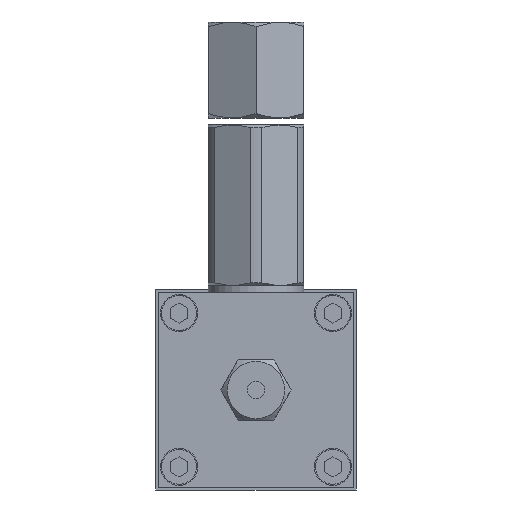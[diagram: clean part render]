
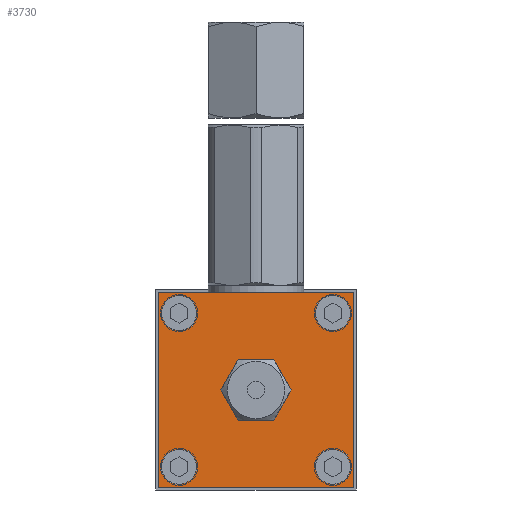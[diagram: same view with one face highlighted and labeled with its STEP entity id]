
A CAD part, left-side view. The second image highlights one B-rep face of the part: STEP entity #3730.
In plain terms, the highlighted planar face has unit normal (-1, 0, 0).
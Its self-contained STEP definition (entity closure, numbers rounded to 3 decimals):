
#3730=ADVANCED_FACE('', (#3740,#3750,#3760,#3770,#3780,#3790), #3800, 
.T.);
#15450=AXIS2_PLACEMENT_3D('Ax2Pl3d', #15460, #15470, #15480);
#15490=AXIS2_PLACEMENT_3D('Ax2Pl3d', #15500, #15510, #15520);
#15530=AXIS2_PLACEMENT_3D('Ax2Pl3d', #15540, #15550, #15560);
#15570=AXIS2_PLACEMENT_3D('Ax2Pl3d', #15580, #15590, #15600);
#15610=AXIS2_PLACEMENT_3D('Ax2Pl3d', #15620, #15630, #15640);
#15460=CARTESIAN_POINT('HicPkt', (-40.,45.5,0.5));
#74570=CARTESIAN_POINT('', (-40.,0.5,0.5));
#74580=CARTESIAN_POINT('', (-40.,45.5,0.5));
#74590=CARTESIAN_POINT('', (-40.,0.5,0.5));
#74600=CARTESIAN_POINT('', (-40.,0.5,45.5));
#74610=CARTESIAN_POINT('', (-40.,0.5,45.5));
#74620=CARTESIAN_POINT('', (-40.,45.5,45.5));
#74630=CARTESIAN_POINT('', (-40.,45.5,45.5));
#74640=CARTESIAN_POINT('', (-40.,45.5,0.5));
#74650=CARTESIAN_POINT('', (-40.,18.959,30.));
#74660=CARTESIAN_POINT('', (-40.,14.917,23.));
#74670=CARTESIAN_POINT('', (-40.,18.959,30.));
#74680=CARTESIAN_POINT('', (-40.,14.917,23.));
#74690=CARTESIAN_POINT('', (-40.,18.959,16.));
#74700=CARTESIAN_POINT('', (-40.,18.959,16.));
#74710=CARTESIAN_POINT('', (-40.,27.041,16.));
#74720=CARTESIAN_POINT('', (-40.,27.041,16.));
#74730=CARTESIAN_POINT('', (-40.,31.083,23.));
#74740=CARTESIAN_POINT('', (-40.,31.083,23.));
#74750=CARTESIAN_POINT('', (-40.,27.041,30.));
#74760=CARTESIAN_POINT('', (-40.,27.041,30.));
#15500=CARTESIAN_POINT('HicPkt', (-40.,40.68,40.68));
#74770=CARTESIAN_POINT('', (-40.,36.68,40.68));
#15540=CARTESIAN_POINT('HicPkt', (-40.,5.32,40.68));
#74780=CARTESIAN_POINT('', (-40.,9.32,40.68));
#15580=CARTESIAN_POINT('HicPkt', (-40.,40.68,5.32));
#74790=CARTESIAN_POINT('', (-40.,44.68,5.32));
#15620=CARTESIAN_POINT('HicPkt', (-40.,5.32,5.32));
#74800=CARTESIAN_POINT('', (-40.,9.32,5.32));
#78280=CIRCLE('Circle', #15490, 4.);
#78290=CIRCLE('Circle', #15530, 4.);
#78300=CIRCLE('Circle', #15570, 4.);
#78310=CIRCLE('Circle', #15610, 4.);
#15470=DIRECTION('Axis', (-1.,0.,
0.));
#15480=DIRECTION('RefDirection', (0.,
0.,-1.));
#96690=DIRECTION('', (0.,-1.,0.));
#96700=DIRECTION('', (0.,0.,1.));
#96710=DIRECTION('', (0.,1.,0.));
#96720=DIRECTION('', (0.,0.,-1.));
#96730=DIRECTION('', (0.,0.5,0.866));
#96740=DIRECTION('', (0.,-0.5,0.866));
#96750=DIRECTION('', (0.,-1.,0.));
#96760=DIRECTION('', (0.,-0.5,-0.866));
#96770=DIRECTION('', (0.,0.5,-0.866));
#96780=DIRECTION('', (0.,1.,0.));
#15510=DIRECTION('Axis', (-1.,0.,
0.));
#15520=DIRECTION('RefDirection', (0.,
0.,-1.));
#15550=DIRECTION('Axis', (-1.,0.,
0.));
#15560=DIRECTION('RefDirection', (0.,
0.,-1.));
#15590=DIRECTION('Axis', (-1.,0.,0.)
);
#15600=DIRECTION('RefDirection', (0.,
0.,-1.));
#15630=DIRECTION('Axis', (-1.,0.,0.)
);
#15640=DIRECTION('RefDirection', (0.,
0.,-1.));
#102480=EDGE_CURVE('', #102490, #102500, #102510, .T.);
#102520=EDGE_CURVE('', #102500, #102530, #102540, .T.);
#102550=EDGE_CURVE('', #102530, #102560, #102570, .T.);
#102580=EDGE_CURVE('', #102560, #102490, #102590, .T.);
#102600=EDGE_CURVE('', #102610, #102620, #102630, .T.);
#102640=EDGE_CURVE('', #102650, #102610, #102660, .T.);
#102670=EDGE_CURVE('', #102680, #102650, #102690, .T.);
#102700=EDGE_CURVE('', #102710, #102680, #102720, .T.);
#102730=EDGE_CURVE('', #102740, #102710, #102750, .T.);
#102760=EDGE_CURVE('', #102620, #102740, #102770, .T.);
#102780=EDGE_CURVE('', #102790, #102790, #78280, .T.);
#102800=EDGE_CURVE('', #102810, #102810, #78290, .T.);
#102820=EDGE_CURVE('', #102830, #102830, #78300, .T.);
#102840=EDGE_CURVE('', #102850, #102850, #78310, .T.);
#113430=EDGE_LOOP('Edge_loop', (#113440,#113450,#113460,#113470));
#113480=EDGE_LOOP('Edge_loop', (#113490,#113500,#113510,#113520,
#113530,#113540));
#113550=EDGE_LOOP('Edge_loop', (#113560));
#113570=EDGE_LOOP('Edge_loop', (#113580));
#113590=EDGE_LOOP('Edge_loop', (#113600));
#113610=EDGE_LOOP('Edge_loop', (#113620));
#3750=FACE_BOUND('', #113480, .T.);
#3760=FACE_BOUND('', #113550, .T.);
#3770=FACE_BOUND('', #113570, .T.);
#3780=FACE_BOUND('', #113590, .T.);
#3790=FACE_BOUND('', #113610, .T.);
#3740=FACE_OUTER_BOUND('Face_outer_bound', #113430, .T.);
#102510=LINE('Line', #74570, #127790);
#102540=LINE('Line', #74600, #127800);
#102570=LINE('Line', #74620, #127810);
#102590=LINE('Line', #74640, #127820);
#102630=LINE('Line', #74650, #127830);
#102660=LINE('Line', #74680, #127840);
#102690=LINE('Line', #74700, #127850);
#102720=LINE('Line', #74720, #127860);
#102750=LINE('Line', #74740, #127870);
#102770=LINE('Line', #74760, #127880);
#113440=ORIENTED_EDGE('', *, *, #102480, .T.);
#113450=ORIENTED_EDGE('', *, *, #102520, .T.);
#113460=ORIENTED_EDGE('', *, *, #102550, .T.);
#113470=ORIENTED_EDGE('', *, *, #102580, .T.);
#113490=ORIENTED_EDGE('', *, *, #102600, .F.);
#113500=ORIENTED_EDGE('', *, *, #102640, .F.);
#113510=ORIENTED_EDGE('', *, *, #102670, .F.);
#113520=ORIENTED_EDGE('', *, *, #102700, .F.);
#113530=ORIENTED_EDGE('', *, *, #102730, .F.);
#113540=ORIENTED_EDGE('', *, *, #102760, .F.);
#113560=ORIENTED_EDGE('', *, *, #102780, .F.);
#113580=ORIENTED_EDGE('', *, *, #102800, .F.);
#113600=ORIENTED_EDGE('', *, *, #102820, .F.);
#113620=ORIENTED_EDGE('', *, *, #102840, .F.);
#3800=PLANE('Plane', #15450);
#127790=VECTOR('', #96690, 45.);
#127800=VECTOR('', #96700, 45.);
#127810=VECTOR('', #96710, 45.);
#127820=VECTOR('', #96720, 45.);
#127830=VECTOR('', #96730, 8.083);
#127840=VECTOR('', #96740, 8.083);
#127850=VECTOR('', #96750, 8.083);
#127860=VECTOR('', #96760, 8.083);
#127870=VECTOR('', #96770, 8.083);
#127880=VECTOR('', #96780, 8.083);
#102490=VERTEX_POINT('', #74580);
#102500=VERTEX_POINT('', #74590);
#102530=VERTEX_POINT('', #74610);
#102560=VERTEX_POINT('', #74630);
#102610=VERTEX_POINT('', #74660);
#102620=VERTEX_POINT('', #74670);
#102650=VERTEX_POINT('', #74690);
#102680=VERTEX_POINT('', #74710);
#102710=VERTEX_POINT('', #74730);
#102740=VERTEX_POINT('', #74750);
#102790=VERTEX_POINT('', #74770);
#102810=VERTEX_POINT('', #74780);
#102830=VERTEX_POINT('', #74790);
#102850=VERTEX_POINT('', #74800);
